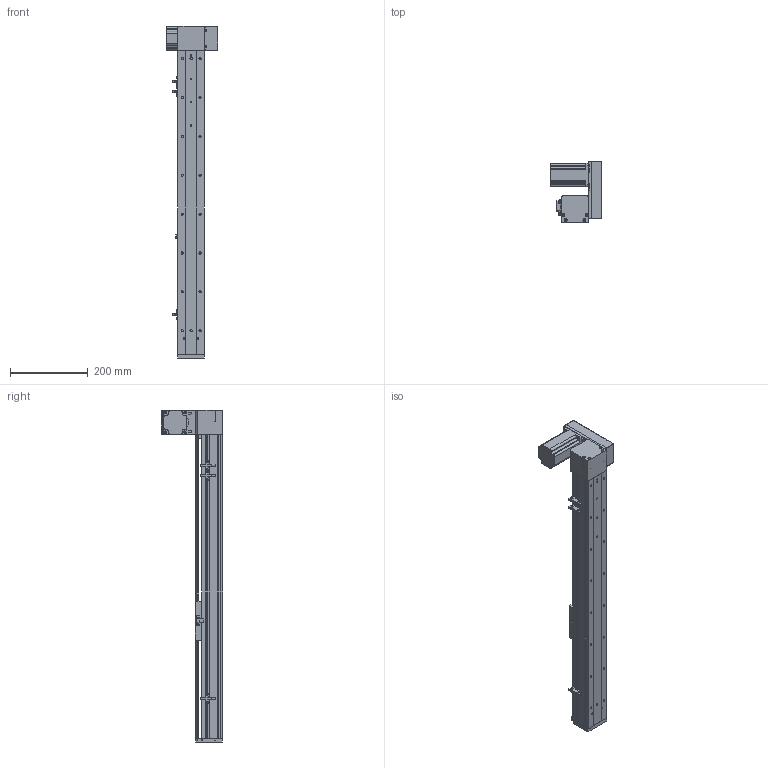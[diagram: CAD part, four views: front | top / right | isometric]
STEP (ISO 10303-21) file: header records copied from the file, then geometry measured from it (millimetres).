
FILE_DESCRIPTION (( 'STEP AP203' ), '1' );
FILE_NAME ('ML68-S600-UL.STEP', '2016-08-04T12:18:34', ( '' ), ( '' ), 'SwSTEP 2.0', 'SolidWorks 2014', '' );
FILE_SCHEMA (( 'CONFIG_CONTROL_DESIGN' ));
Length unit declared in the file: millimetre
Products named in the file (12): ML68奻裔^ML68-S600-UL; 60換覜結え; 三协电机MH201N2_預設; ML68-BR傷啣; QS68酘衵殏萇儂啣; 換覜ん; ML68滅鳥啣盓傅輸媼; QS68左右折电机板罩子; ML68菁釱^ML68-S600-UL; ML68雄赽釱; ML68-S600-UL; ML68傷啣
Assembly tree (13 placements, depth 2):
  ML68-S600-UL
    ML68菁釱^ML68-S600-UL
    ML68奻裔^ML68-S600-UL
    60換覜結え
    ML68-BR傷啣
    換覜ん  x3
    ML68傷啣
    三协电机MH201N2_預設
    ML68雄赽釱
    QS68酘衵殏萇儂啣
    QS68左右折电机板罩子
    ML68滅鳥啣盓傅輸媼
Bounding box: 133.5 x 157 x 854 mm (x, y, z)
Volume: 1657587.3 mm3; surface area: 617676.8 mm2
Topology: 13 solids, 13 shells, 921 faces, 2522 edges, 1603 vertices
Faces by surface type: cylinder 422, plane 407, cone 92
Entity records: 29294 total; most frequent: CARTESIAN_POINT 5654, DIRECTION 4784, ORIENTED_EDGE 4552, EDGE_CURVE 2276, AXIS2_PLACEMENT_3D 1729, VERTEX_POINT 1491, VECTOR 1326, LINE 1326
